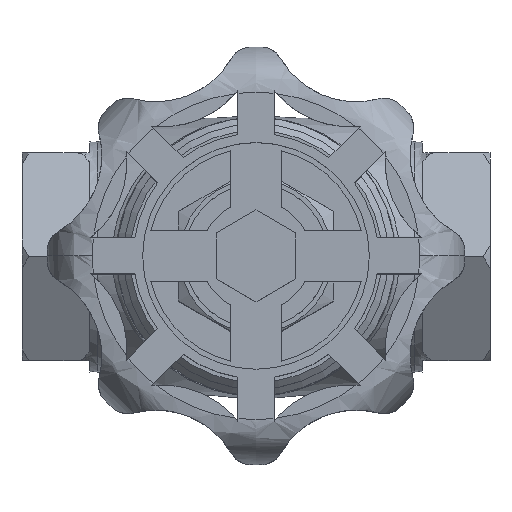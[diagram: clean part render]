
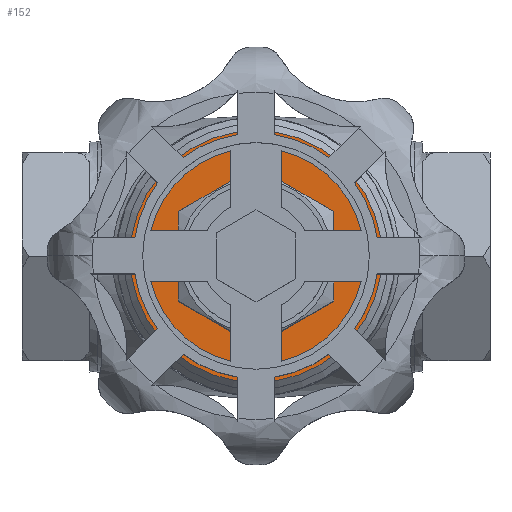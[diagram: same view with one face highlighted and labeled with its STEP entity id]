
A CAD part, top view. The second image highlights one B-rep face of the part: STEP entity #152.
In plain terms, the highlighted planar face has unit normal (0, 0, 1).
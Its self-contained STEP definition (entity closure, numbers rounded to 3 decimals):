
#152=ADVANCED_FACE('',(#1412,#1413),#1411,.T.);
#1411=PLANE('',#3564);
#1412=FACE_OUTER_BOUND('',#3565,.T.);
#1413=FACE_BOUND('',#3566,.T.);
#3561=CARTESIAN_POINT('',(-47.662,-75.233,66.385));
#3562=DIRECTION('',(0.,0.,1.));
#3563=DIRECTION('',(1.,0.,0.));
#3564=AXIS2_PLACEMENT_3D('',#3561,#3562,#3563);
#3565=EDGE_LOOP('',(#6194,#6195));
#3566=EDGE_LOOP('',(#6196,#6197,#6198,#6199,#6200,#6201,#6202,#6203,#6204,#6205,#6206,#6207));
#6194=ORIENTED_EDGE('',*,*,#7391,.F.);
#6195=ORIENTED_EDGE('',*,*,#7392,.F.);
#6196=ORIENTED_EDGE('',*,*,#7004,.T.);
#6197=ORIENTED_EDGE('',*,*,#7030,.F.);
#6198=ORIENTED_EDGE('',*,*,#6998,.T.);
#6199=ORIENTED_EDGE('',*,*,#7026,.F.);
#6200=ORIENTED_EDGE('',*,*,#7045,.T.);
#6201=ORIENTED_EDGE('',*,*,#7393,.F.);
#6202=ORIENTED_EDGE('',*,*,#7042,.T.);
#6203=ORIENTED_EDGE('',*,*,#7017,.F.);
#6204=ORIENTED_EDGE('',*,*,#7013,.T.);
#6205=ORIENTED_EDGE('',*,*,#7022,.F.);
#6206=ORIENTED_EDGE('',*,*,#7006,.T.);
#6207=ORIENTED_EDGE('',*,*,#7382,.F.);
#6998=EDGE_CURVE('',#8038,#8039,#8040,.T.);
#7004=EDGE_CURVE('',#8081,#8074,#8082,.T.);
#7006=EDGE_CURVE('',#8094,#8095,#8096,.T.);
#7013=EDGE_CURVE('',#8142,#8143,#8144,.T.);
#7017=EDGE_CURVE('',#8142,#8170,#8171,.T.);
#7022=EDGE_CURVE('',#8094,#8143,#8204,.T.);
#7026=EDGE_CURVE('',#8230,#8039,#8231,.T.);
#7030=EDGE_CURVE('',#8038,#8074,#8257,.T.);
#7042=EDGE_CURVE('',#8339,#8170,#8340,.T.);
#7045=EDGE_CURVE('',#8230,#8359,#8360,.T.);
#7382=EDGE_CURVE('',#8081,#8095,#10629,.T.);
#7391=EDGE_CURVE('',#10690,#10691,#10692,.T.);
#7392=EDGE_CURVE('',#10691,#10690,#10698,.T.);
#7393=EDGE_CURVE('',#8339,#8359,#10704,.T.);
#8038=VERTEX_POINT('',#12559);
#8039=VERTEX_POINT('',#12560);
#8040=CIRCLE('',#12564,26.76);
#8074=VERTEX_POINT('',#12583);
#8081=VERTEX_POINT('',#12587);
#8082=CIRCLE('',#12591,26.76);
#8094=VERTEX_POINT('',#12595);
#8095=VERTEX_POINT('',#12596);
#8096=CIRCLE('',#12600,26.76);
#8142=VERTEX_POINT('',#12627);
#8143=VERTEX_POINT('',#12628);
#8144=CIRCLE('',#12632,26.76);
#8170=VERTEX_POINT('',#12645);
#8171=LINE('',#12646,#12647);
#8204=LINE('',#12666,#12667);
#8230=VERTEX_POINT('',#12682);
#8231=LINE('',#12683,#12684);
#8257=LINE('',#12698,#12699);
#8339=VERTEX_POINT('',#12787);
#8340=CIRCLE('',#12791,26.76);
#8359=VERTEX_POINT('',#12800);
#8360=CIRCLE('',#12804,26.76);
#10629=LINE('',#14554,#14555);
#10690=VERTEX_POINT('',#14612);
#10691=VERTEX_POINT('',#14613);
#10692=CIRCLE('',#14617,37.662);
#10698=CIRCLE('',#14621,37.662);
#10704=LINE('',#14622,#14623);
#12559=CARTESIAN_POINT('',(0.102,-26.76,66.385));
#12560=CARTESIAN_POINT('',(-0.102,-26.76,66.385));
#12561=CARTESIAN_POINT('',(0.,0.,66.385));
#12562=DIRECTION('',(0.,0.,-1.));
#12563=DIRECTION('',(1.,0.,0.));
#12564=AXIS2_PLACEMENT_3D('',#12561,#12562,#12563);
#12583=CARTESIAN_POINT('',(23.124,-13.468,66.385));
#12587=CARTESIAN_POINT('',(23.226,-13.291,66.385));
#12588=CARTESIAN_POINT('',(0.,0.,66.385));
#12589=DIRECTION('',(0.,0.,-1.));
#12590=DIRECTION('',(1.,0.,0.));
#12591=AXIS2_PLACEMENT_3D('',#12588,#12589,#12590);
#12595=CARTESIAN_POINT('',(23.124,13.468,66.385));
#12596=CARTESIAN_POINT('',(23.226,13.291,66.385));
#12597=CARTESIAN_POINT('',(0.,0.,66.385));
#12598=DIRECTION('',(0.,0.,-1.));
#12599=DIRECTION('',(1.,0.,0.));
#12600=AXIS2_PLACEMENT_3D('',#12597,#12598,#12599);
#12627=CARTESIAN_POINT('',(-0.102,26.76,66.385));
#12628=CARTESIAN_POINT('',(0.102,26.76,66.385));
#12629=CARTESIAN_POINT('',(0.,0.,66.385));
#12630=DIRECTION('',(0.,0.,-1.));
#12631=DIRECTION('',(1.,0.,0.));
#12632=AXIS2_PLACEMENT_3D('',#12629,#12630,#12631);
#12645=CARTESIAN_POINT('',(-23.124,13.468,66.385));
#12646=CARTESIAN_POINT('',(-0.102,26.76,66.385));
#12647=VECTOR('',#12648,26.583);
#12648=DIRECTION('',(-0.866,-0.5,0.));
#12666=CARTESIAN_POINT('',(23.124,13.468,66.385));
#12667=VECTOR('',#12668,26.583);
#12668=DIRECTION('',(-0.866,0.5,0.));
#12682=CARTESIAN_POINT('',(-23.124,-13.468,66.385));
#12683=CARTESIAN_POINT('',(-23.124,-13.468,66.385));
#12684=VECTOR('',#12685,26.583);
#12685=DIRECTION('',(0.866,-0.5,0.));
#12698=CARTESIAN_POINT('',(0.102,-26.76,66.385));
#12699=VECTOR('',#12700,26.583);
#12700=DIRECTION('',(0.866,0.5,0.));
#12787=CARTESIAN_POINT('',(-23.226,13.291,66.385));
#12788=CARTESIAN_POINT('',(0.,0.,66.385));
#12789=DIRECTION('',(0.,0.,-1.));
#12790=DIRECTION('',(1.,0.,0.));
#12791=AXIS2_PLACEMENT_3D('',#12788,#12789,#12790);
#12800=CARTESIAN_POINT('',(-23.226,-13.291,66.385));
#12801=CARTESIAN_POINT('',(0.,0.,66.385));
#12802=DIRECTION('',(0.,0.,-1.));
#12803=DIRECTION('',(1.,0.,0.));
#12804=AXIS2_PLACEMENT_3D('',#12801,#12802,#12803);
#14554=CARTESIAN_POINT('',(23.226,-13.291,66.385));
#14555=VECTOR('',#14556,26.583);
#14556=DIRECTION('',(0.,1.,0.));
#14612=CARTESIAN_POINT('',(37.662,0.,66.385));
#14613=CARTESIAN_POINT('',(-37.662,0.,66.385));
#14614=CARTESIAN_POINT('',(0.,0.,66.385));
#14615=DIRECTION('',(0.,0.,-1.));
#14616=DIRECTION('',(-1.,0.,0.));
#14617=AXIS2_PLACEMENT_3D('',#14614,#14615,#14616);
#14618=CARTESIAN_POINT('',(0.,0.,66.385));
#14619=DIRECTION('',(0.,0.,-1.));
#14620=DIRECTION('',(-1.,0.,0.));
#14621=AXIS2_PLACEMENT_3D('',#14618,#14619,#14620);
#14622=CARTESIAN_POINT('',(-23.226,13.291,66.385));
#14623=VECTOR('',#14624,26.583);
#14624=DIRECTION('',(0.,-1.,0.));
